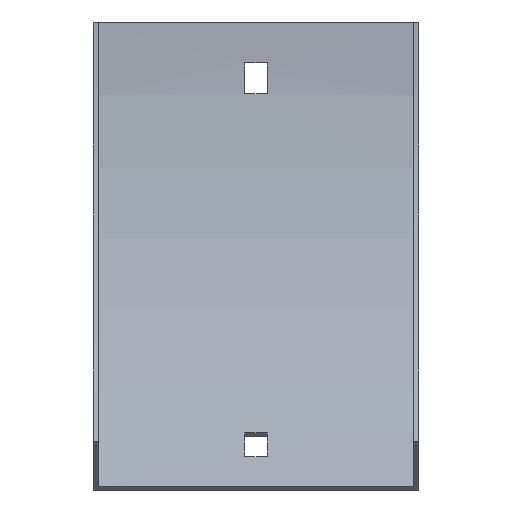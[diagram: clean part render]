
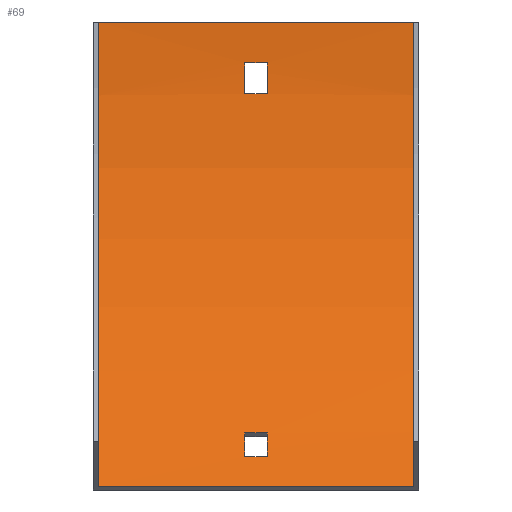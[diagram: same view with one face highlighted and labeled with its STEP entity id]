
A CAD part, front view. The second image highlights one B-rep face of the part: STEP entity #69.
In plain terms, the highlighted cylindrical face has radius 192.5 mm (diameter 385 mm), a partial arc.
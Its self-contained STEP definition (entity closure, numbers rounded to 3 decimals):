
#18 = AXIS2_PLACEMENT_3D ( 'NONE', #75, #607, #504 ) ;
#22 = CARTESIAN_POINT ( 'NONE',  ( 3.25, -2.649, -21. ) ) ;
#27 = DIRECTION ( 'NONE',  ( 1., 0., 0. ) ) ;
#29 = CARTESIAN_POINT ( 'NONE',  ( 47.75, -194., 0. ) ) ;
#32 = ORIENTED_EDGE ( 'NONE', *, *, #331, .T. ) ;
#35 = ORIENTED_EDGE ( 'NONE', *, *, #90, .F. ) ;
#36 = EDGE_CURVE ( 'NONE', #116, #502, #123, .T. ) ;
#53 = VERTEX_POINT ( 'NONE', #552 ) ;
#55 = ORIENTED_EDGE ( 'NONE', *, *, #36, .F. ) ;
#69 = ADVANCED_FACE ( 'NONE', ( #122, #165, #262 ), #393, .F. ) ;
#73 = CIRCLE ( 'NONE', #175, 192.5 ) ;
#75 = CARTESIAN_POINT ( 'NONE',  ( 3.25, -194., 0. ) ) ;
#82 = CARTESIAN_POINT ( 'NONE',  ( 3.25, -1.874, -12. ) ) ;
#86 = DIRECTION ( 'NONE',  ( -1., 0., 0. ) ) ;
#90 = EDGE_CURVE ( 'NONE', #502, #375, #73, .T. ) ;
#98 = CARTESIAN_POINT ( 'NONE',  ( 47.75, -43.845, -120.456 ) ) ;
#102 = AXIS2_PLACEMENT_3D ( 'NONE', #29, #347, #500 ) ;
#103 = ORIENTED_EDGE ( 'NONE', *, *, #177, .F. ) ;
#108 = VERTEX_POINT ( 'NONE', #119 ) ;
#113 = AXIS2_PLACEMENT_3D ( 'NONE', #448, #205, #561 ) ;
#116 = VERTEX_POINT ( 'NONE', #82 ) ;
#119 = CARTESIAN_POINT ( 'NONE',  ( -46.25, -1.5, 0. ) ) ;
#122 = FACE_BOUND ( 'NONE', #259, .T. ) ;
#123 = LINE ( 'NONE', #207, #282 ) ;
#125 = CARTESIAN_POINT ( 'NONE',  ( 46.25, -1.5, 0. ) ) ;
#129 = CIRCLE ( 'NONE', #18, 192.5 ) ;
#135 = DIRECTION ( 'NONE',  ( 1., 0., 0. ) ) ;
#142 = CIRCLE ( 'NONE', #487, 192.5 ) ;
#148 = LINE ( 'NONE', #156, #337 ) ;
#156 = CARTESIAN_POINT ( 'NONE',  ( 47.75, -49.661, -127.368 ) ) ;
#165 = FACE_OUTER_BOUND ( 'NONE', #449, .T. ) ;
#166 = CARTESIAN_POINT ( 'NONE',  ( 3.25, -194., 0. ) ) ;
#175 = AXIS2_PLACEMENT_3D ( 'NONE', #459, #304, #397 ) ;
#177 = EDGE_CURVE ( 'NONE', #233, #108, #142, .T. ) ;
#192 = VECTOR ( 'NONE', #309, 1000. ) ;
#193 = ORIENTED_EDGE ( 'NONE', *, *, #427, .F. ) ;
#198 = CARTESIAN_POINT ( 'NONE',  ( 3.25, -49.661, -127.368 ) ) ;
#201 = CARTESIAN_POINT ( 'NONE',  ( 46.25, -57.882, -136.118 ) ) ;
#205 = DIRECTION ( 'NONE',  ( 1., 0., 0. ) ) ;
#207 = CARTESIAN_POINT ( 'NONE',  ( 47.75, -1.874, -12. ) ) ;
#220 = ORIENTED_EDGE ( 'NONE', *, *, #432, .F. ) ;
#224 = VERTEX_POINT ( 'NONE', #269 ) ;
#233 = VERTEX_POINT ( 'NONE', #484 ) ;
#259 = EDGE_LOOP ( 'NONE', ( #35, #55, #220, #365 ) ) ;
#260 = EDGE_CURVE ( 'NONE', #294, #395, #388, .T. ) ;
#262 = FACE_BOUND ( 'NONE', #276, .T. ) ;
#265 = CIRCLE ( 'NONE', #113, 192.5 ) ;
#269 = CARTESIAN_POINT ( 'NONE',  ( -3.25, -43.845, -120.456 ) ) ;
#276 = EDGE_LOOP ( 'NONE', ( #424, #32, #478, #303 ) ) ;
#279 = VECTOR ( 'NONE', #555, 1000. ) ;
#282 = VECTOR ( 'NONE', #86, 1000. ) ;
#290 = CARTESIAN_POINT ( 'NONE',  ( 47.75, -2.649, -21. ) ) ;
#294 = VERTEX_POINT ( 'NONE', #201 ) ;
#303 = ORIENTED_EDGE ( 'NONE', *, *, #411, .T. ) ;
#304 = DIRECTION ( 'NONE',  ( -1., 0., 0. ) ) ;
#305 = DIRECTION ( 'NONE',  ( 0., 0., -1. ) ) ;
#309 = DIRECTION ( 'NONE',  ( -1., 0., 0. ) ) ;
#311 = DIRECTION ( 'NONE',  ( 1., 0., 0. ) ) ;
#313 = VERTEX_POINT ( 'NONE', #330 ) ;
#314 = CARTESIAN_POINT ( 'NONE',  ( -3.25, -1.874, -12. ) ) ;
#320 = VERTEX_POINT ( 'NONE', #22 ) ;
#321 = EDGE_CURVE ( 'NONE', #589, #53, #148, .T. ) ;
#325 = CIRCLE ( 'NONE', #495, 192.5 ) ;
#330 = CARTESIAN_POINT ( 'NONE',  ( 3.25, -43.845, -120.456 ) ) ;
#331 = EDGE_CURVE ( 'NONE', #53, #224, #265, .T. ) ;
#337 = VECTOR ( 'NONE', #491, 1000. ) ;
#339 = DIRECTION ( 'NONE',  ( 0., 0., 1. ) ) ;
#347 = DIRECTION ( 'NONE',  ( -1., 0., 0. ) ) ;
#365 = ORIENTED_EDGE ( 'NONE', *, *, #600, .F. ) ;
#367 = ORIENTED_EDGE ( 'NONE', *, *, #260, .T. ) ;
#368 = VECTOR ( 'NONE', #135, 1000. ) ;
#375 = VERTEX_POINT ( 'NONE', #553 ) ;
#386 = CARTESIAN_POINT ( 'NONE',  ( 46.25, -194., 0. ) ) ;
#388 = CIRCLE ( 'NONE', #477, 192.5 ) ;
#393 = CYLINDRICAL_SURFACE ( 'NONE', #102, 192.5 ) ;
#395 = VERTEX_POINT ( 'NONE', #125 ) ;
#397 = DIRECTION ( 'NONE',  ( 0., 0., 1. ) ) ;
#398 = CARTESIAN_POINT ( 'NONE',  ( 46.25, -1.5, 0. ) ) ;
#402 = CARTESIAN_POINT ( 'NONE',  ( -46.25, -194., 0. ) ) ;
#404 = EDGE_CURVE ( 'NONE', #395, #108, #605, .T. ) ;
#411 = EDGE_CURVE ( 'NONE', #313, #589, #129, .T. ) ;
#424 = ORIENTED_EDGE ( 'NONE', *, *, #321, .T. ) ;
#427 = EDGE_CURVE ( 'NONE', #294, #233, #558, .T. ) ;
#432 = EDGE_CURVE ( 'NONE', #320, #116, #325, .T. ) ;
#434 = DIRECTION ( 'NONE',  ( 1., 0., 0. ) ) ;
#446 = VECTOR ( 'NONE', #434, 1000. ) ;
#448 = CARTESIAN_POINT ( 'NONE',  ( -3.25, -194., 0. ) ) ;
#449 = EDGE_LOOP ( 'NONE', ( #103, #193, #367, #474 ) ) ;
#459 = CARTESIAN_POINT ( 'NONE',  ( -3.25, -194., 0. ) ) ;
#463 = DIRECTION ( 'NONE',  ( 0., 0., 1. ) ) ;
#468 = LINE ( 'NONE', #98, #368 ) ;
#474 = ORIENTED_EDGE ( 'NONE', *, *, #404, .T. ) ;
#477 = AXIS2_PLACEMENT_3D ( 'NONE', #386, #585, #339 ) ;
#478 = ORIENTED_EDGE ( 'NONE', *, *, #526, .T. ) ;
#484 = CARTESIAN_POINT ( 'NONE',  ( -46.25, -57.882, -136.118 ) ) ;
#487 = AXIS2_PLACEMENT_3D ( 'NONE', #402, #311, #463 ) ;
#491 = DIRECTION ( 'NONE',  ( -1., 0., 0. ) ) ;
#495 = AXIS2_PLACEMENT_3D ( 'NONE', #166, #27, #305 ) ;
#500 = DIRECTION ( 'NONE',  ( 0., 0., 1. ) ) ;
#502 = VERTEX_POINT ( 'NONE', #314 ) ;
#504 = DIRECTION ( 'NONE',  ( 0., 0., 1. ) ) ;
#526 = EDGE_CURVE ( 'NONE', #224, #313, #468, .T. ) ;
#552 = CARTESIAN_POINT ( 'NONE',  ( -3.25, -49.661, -127.368 ) ) ;
#553 = CARTESIAN_POINT ( 'NONE',  ( -3.25, -2.649, -21. ) ) ;
#555 = DIRECTION ( 'NONE',  ( -1., 0., 0. ) ) ;
#558 = LINE ( 'NONE', #602, #192 ) ;
#561 = DIRECTION ( 'NONE',  ( 0., 0., -1. ) ) ;
#585 = DIRECTION ( 'NONE',  ( 1., 0., 0. ) ) ;
#586 = LINE ( 'NONE', #290, #446 ) ;
#589 = VERTEX_POINT ( 'NONE', #198 ) ;
#600 = EDGE_CURVE ( 'NONE', #375, #320, #586, .T. ) ;
#602 = CARTESIAN_POINT ( 'NONE',  ( 46.25, -57.882, -136.118 ) ) ;
#605 = LINE ( 'NONE', #398, #279 ) ;
#607 = DIRECTION ( 'NONE',  ( -1., 0., 0. ) ) ;
